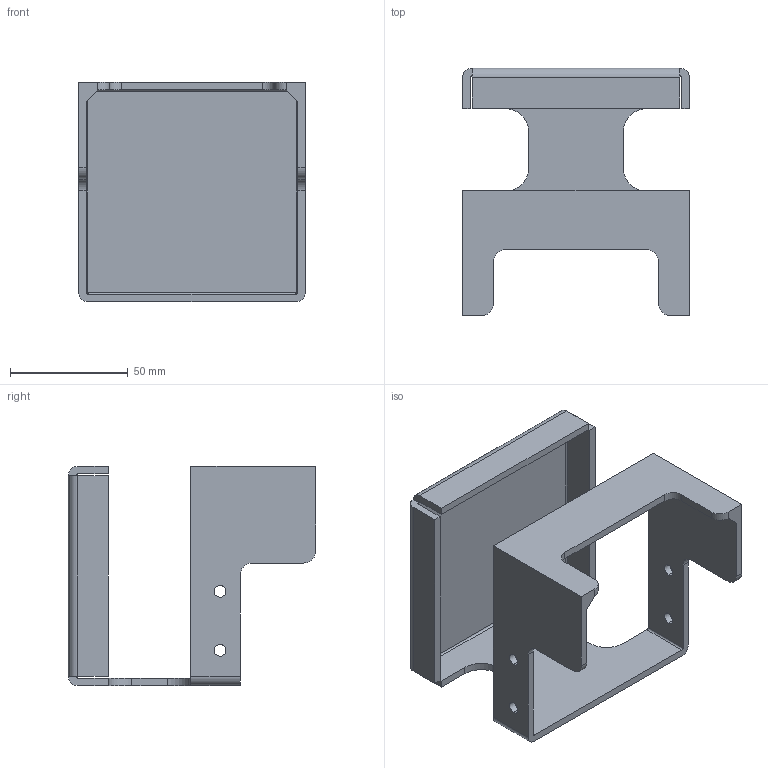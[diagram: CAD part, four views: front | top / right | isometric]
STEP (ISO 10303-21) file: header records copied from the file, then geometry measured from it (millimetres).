
FILE_DESCRIPTION (( 'STEP AP214' ), '1' );
FILE_NAME ('UZ00103.STEP', '2020-09-15T08:52:20', ( 'hokuyo' ), ( '' ), 'SwSTEP 2.0', 'SolidWorks 2020', '' );
FILE_SCHEMA (( 'AUTOMOTIVE_DESIGN' ));
Length unit declared in the file: millimetre
Products named in the file (1): UZ00103
Bounding box: 96.2 x 105 x 93 mm (x, y, z)
Volume: 84205.5 mm3; surface area: 55848.5 mm2
Topology: 1 solids, 1 shells, 80 faces, 222 edges, 142 vertices
Faces by surface type: plane 48, cylinder 32
Entity records: 2602 total; most frequent: DIRECTION 450, CARTESIAN_POINT 445, ORIENTED_EDGE 444, EDGE_CURVE 222, LINE 156, VECTOR 156, AXIS2_PLACEMENT_3D 147, VERTEX_POINT 142
